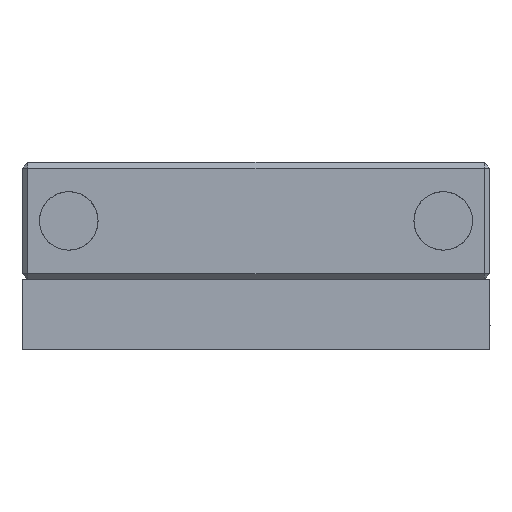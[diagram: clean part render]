
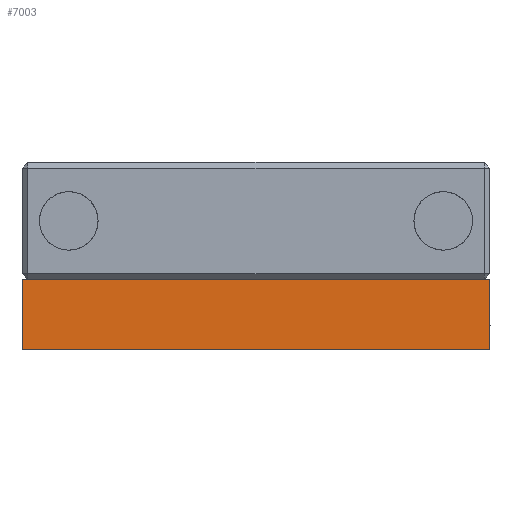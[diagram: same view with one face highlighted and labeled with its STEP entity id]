
A CAD part, front view. The second image highlights one B-rep face of the part: STEP entity #7003.
In plain terms, the highlighted planar face has unit normal (0, -1, 0) as drawn and (1, 0, 0) by its records, which use the part's own axes.
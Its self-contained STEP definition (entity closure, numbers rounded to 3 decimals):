
#592 = ORIENTED_EDGE ( 'NONE', *, *, #4042, .F. ) ;
#2767 = DIRECTION ( 'NONE',  ( 0., 0., -1. ) ) ;
#2855 = VERTEX_POINT ( 'NONE', #30115 ) ;
#3673 = CARTESIAN_POINT ( 'NONE',  ( 115., 6., -20. ) ) ;
#4042 = EDGE_CURVE ( 'NONE', #32934, #18071, #26214, .T. ) ;
#4609 = ORIENTED_EDGE ( 'NONE', *, *, #33664, .T. ) ;
#4929 = CARTESIAN_POINT ( 'NONE',  ( 115., 0., -20. ) ) ;
#5539 = ORIENTED_EDGE ( 'NONE', *, *, #32478, .T. ) ;
#7003 = ADVANCED_FACE ( 'NONE', ( #20056 ), #27949, .F. ) ;
#7336 = DIRECTION ( 'NONE',  ( 0., 0., -1. ) ) ;
#8458 = CARTESIAN_POINT ( 'NONE',  ( 115., 6., 20. ) ) ;
#8689 = DIRECTION ( 'NONE',  ( -1., 0., 0. ) ) ;
#10325 = VECTOR ( 'NONE', #22482, 1000. ) ;
#10981 = CARTESIAN_POINT ( 'NONE',  ( 115., 0., 20. ) ) ;
#14057 = CARTESIAN_POINT ( 'NONE',  ( 115., 6., 20. ) ) ;
#17011 = EDGE_LOOP ( 'NONE', ( #4609, #27901, #592, #5539 ) ) ;
#18071 = VERTEX_POINT ( 'NONE', #3673 ) ;
#18315 = CARTESIAN_POINT ( 'NONE',  ( 115., 6., 20. ) ) ;
#19152 = AXIS2_PLACEMENT_3D ( 'NONE', #27825, #8689, #25304 ) ;
#19932 = CARTESIAN_POINT ( 'NONE',  ( 115., 6., -20. ) ) ;
#20056 = FACE_OUTER_BOUND ( 'NONE', #17011, .T. ) ;
#22482 = DIRECTION ( 'NONE',  ( 0., -1., 0. ) ) ;
#22701 = VECTOR ( 'NONE', #2767, 1000. ) ;
#22911 = DIRECTION ( 'NONE',  ( 0., -1., 0. ) ) ;
#24364 = EDGE_CURVE ( 'NONE', #18071, #24722, #33337, .T. ) ;
#24722 = VERTEX_POINT ( 'NONE', #4929 ) ;
#25196 = VECTOR ( 'NONE', #22911, 1000. ) ;
#25304 = DIRECTION ( 'NONE',  ( 0., 0., 1. ) ) ;
#26214 = LINE ( 'NONE', #18315, #33047 ) ;
#27825 = CARTESIAN_POINT ( 'NONE',  ( 115., 6., 20. ) ) ;
#27901 = ORIENTED_EDGE ( 'NONE', *, *, #24364, .F. ) ;
#27949 = PLANE ( 'NONE',  #19152 ) ;
#28281 = LINE ( 'NONE', #10981, #22701 ) ;
#30115 = CARTESIAN_POINT ( 'NONE',  ( 115., 0., 20. ) ) ;
#31406 = LINE ( 'NONE', #14057, #10325 ) ;
#32478 = EDGE_CURVE ( 'NONE', #32934, #2855, #31406, .T. ) ;
#32934 = VERTEX_POINT ( 'NONE', #8458 ) ;
#33047 = VECTOR ( 'NONE', #7336, 1000. ) ;
#33337 = LINE ( 'NONE', #19932, #25196 ) ;
#33664 = EDGE_CURVE ( 'NONE', #2855, #24722, #28281, .T. ) ;
